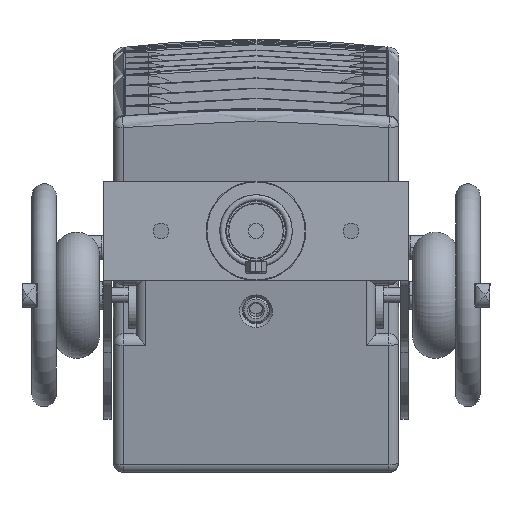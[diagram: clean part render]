
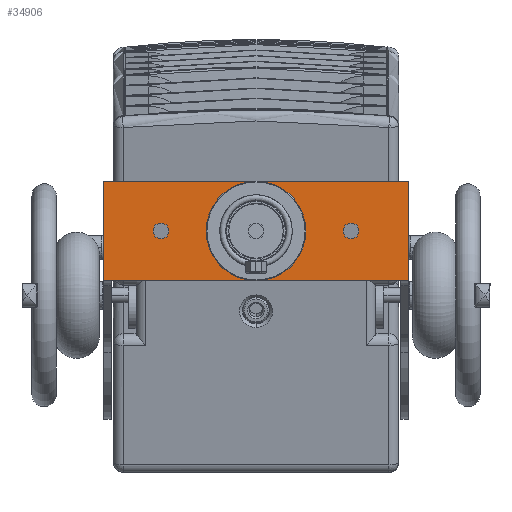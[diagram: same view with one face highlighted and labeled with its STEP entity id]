
A CAD part, front view. The second image highlights one B-rep face of the part: STEP entity #34906.
In plain terms, the highlighted planar face has unit normal (0, -1, 0) as drawn and (0, 0, -1) by its records, which use the part's own axes.
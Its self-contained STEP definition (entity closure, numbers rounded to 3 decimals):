
#7471 = DIRECTION ( 'NONE',  ( -1., 0., 0. ) ) ;
#7472 = DIRECTION ( 'NONE',  ( 0., 0., 1. ) ) ;
#7473 = CARTESIAN_POINT ( 'NONE',  ( 93.5, 126.903, -68.501 ) ) ;
#7474 = AXIS2_PLACEMENT_3D ( 'NONE', #7473, #7472, #7471 ) ;
#7475 = CIRCLE ( 'NONE', #7474, 5.25 ) ;
#7487 = DIRECTION ( 'NONE',  ( -1., 0., 0. ) ) ;
#7488 = DIRECTION ( 'NONE',  ( 0., 0., 1. ) ) ;
#7489 = CARTESIAN_POINT ( 'NONE',  ( 219.5, 126.903, -68.501 ) ) ;
#7490 = AXIS2_PLACEMENT_3D ( 'NONE', #7489, #7488, #7487 ) ;
#7491 = CIRCLE ( 'NONE', #7490, 5.25 ) ;
#7549 = DIRECTION ( 'NONE',  ( -1., 0., 0. ) ) ;
#7550 = DIRECTION ( 'NONE',  ( 0., 0., 1. ) ) ;
#7551 = CARTESIAN_POINT ( 'NONE',  ( 156.5, 126.903, -68.501 ) ) ;
#7552 = AXIS2_PLACEMENT_3D ( 'NONE', #7551, #7550, #7549 ) ;
#7556 = CIRCLE ( 'NONE', #7552, 5.25 ) ;
#7700 = CARTESIAN_POINT ( 'NONE',  ( 55.5, 159.903, -68.501 ) ) ;
#7701 = CARTESIAN_POINT ( 'NONE',  ( 55.5, 93.903, -68.501 ) ) ;
#7702 = DIRECTION ( 'NONE',  ( 0., 1., 0. ) ) ;
#7703 = VECTOR ( 'NONE', #7702, 1000. ) ;
#7704 = CARTESIAN_POINT ( 'NONE',  ( 55.5, 93.903, -68.501 ) ) ;
#7705 = LINE ( 'NONE', #7704, #7703 ) ;
#12425 = DIRECTION ( 'NONE',  ( 0., 0., 1. ) ) ;
#12426 = CARTESIAN_POINT ( 'NONE',  ( 93.5, 126.903, -68.501 ) ) ;
#12427 = AXIS2_PLACEMENT_3D ( 'NONE', #12426, #12425, #12487 ) ;
#12428 = CIRCLE ( 'NONE', #12427, 5.25 ) ;
#12434 = CARTESIAN_POINT ( 'NONE',  ( 98.75, 126.903, -68.501 ) ) ;
#12486 = CARTESIAN_POINT ( 'NONE',  ( 88.25, 126.903, -68.501 ) ) ;
#12487 = DIRECTION ( 'NONE',  ( -1., 0., 0. ) ) ;
#12509 = CARTESIAN_POINT ( 'NONE',  ( 151.25, 126.903, -68.501 ) ) ;
#12516 = DIRECTION ( 'NONE',  ( -1., 0., 0. ) ) ;
#12517 = DIRECTION ( 'NONE',  ( 0., 0., 1. ) ) ;
#12518 = CARTESIAN_POINT ( 'NONE',  ( 156.5, 126.903, -68.501 ) ) ;
#12519 = AXIS2_PLACEMENT_3D ( 'NONE', #12518, #12517, #12516 ) ;
#12520 = CIRCLE ( 'NONE', #12519, 5.25 ) ;
#12525 = CARTESIAN_POINT ( 'NONE',  ( 214.25, 126.903, -68.501 ) ) ;
#12526 = DIRECTION ( 'NONE',  ( -1., 0., 0. ) ) ;
#12527 = DIRECTION ( 'NONE',  ( 0., 0., 1. ) ) ;
#12528 = CARTESIAN_POINT ( 'NONE',  ( 219.5, 126.903, -68.501 ) ) ;
#12529 = AXIS2_PLACEMENT_3D ( 'NONE', #12528, #12527, #12526 ) ;
#12530 = CIRCLE ( 'NONE', #12529, 5.25 ) ;
#12536 = CARTESIAN_POINT ( 'NONE',  ( 224.75, 126.903, -68.501 ) ) ;
#12618 = CARTESIAN_POINT ( 'NONE',  ( 161.75, 126.903, -68.501 ) ) ;
#13272 = CARTESIAN_POINT ( 'NONE',  ( 257.5, 93.903, -68.501 ) ) ;
#13273 = DIRECTION ( 'NONE',  ( -1., 0., 0. ) ) ;
#13274 = VECTOR ( 'NONE', #13273, 1000. ) ;
#13275 = CARTESIAN_POINT ( 'NONE',  ( 60.5, 93.903, -68.501 ) ) ;
#13276 = LINE ( 'NONE', #13275, #13274 ) ;
#14497 = DIRECTION ( 'NONE',  ( 0., 1., 0. ) ) ;
#14498 = VECTOR ( 'NONE', #14497, 1000. ) ;
#14499 = CARTESIAN_POINT ( 'NONE',  ( 257.5, 159.903, -68.501 ) ) ;
#14500 = LINE ( 'NONE', #14499, #14498 ) ;
#14502 = CARTESIAN_POINT ( 'NONE',  ( 257.5, 159.903, -68.501 ) ) ;
#14507 = DIRECTION ( 'NONE',  ( -1., 0., 0. ) ) ;
#14508 = VECTOR ( 'NONE', #14507, 1000. ) ;
#14509 = CARTESIAN_POINT ( 'NONE',  ( 60.5, 159.903, -68.501 ) ) ;
#14513 = LINE ( 'NONE', #14509, #14508 ) ;
#14516 = DIRECTION ( 'NONE',  ( -1., 0., 0. ) ) ;
#14517 = DIRECTION ( 'NONE',  ( 0., 0., -1. ) ) ;
#14518 = CARTESIAN_POINT ( 'NONE',  ( 60.5, 93.903, -68.501 ) ) ;
#14520 = AXIS2_PLACEMENT_3D ( 'NONE', #14518, #14517, #14516 ) ;
#14521 = PLANE ( 'NONE',  #14520 ) ;
#14522 = FACE_BOUND ( 'NONE', #34874, .T. ) ;
#14523 = FACE_BOUND ( 'NONE', #35001, .T. ) ;
#14524 = FACE_BOUND ( 'NONE', #34936, .T. ) ;
#14525 = FACE_OUTER_BOUND ( 'NONE', #34911, .T. ) ;
#16430 = ORIENTED_EDGE ( 'NONE', *, *, #22496, .T. ) ;
#20107 = EDGE_CURVE ( 'NONE', #22492, #22497, #7475, .T. ) ;
#20132 = EDGE_CURVE ( 'NONE', #22536, #22542, #7491, .T. ) ;
#20168 = EDGE_CURVE ( 'NONE', #22589, #22516, #7556, .T. ) ;
#20273 = EDGE_CURVE ( 'NONE', #20275, #20276, #7705, .T. ) ;
#20275 = VERTEX_POINT ( 'NONE', #7701 ) ;
#20276 = VERTEX_POINT ( 'NONE', #7700 ) ;
#22492 = VERTEX_POINT ( 'NONE', #12434 ) ;
#22496 = EDGE_CURVE ( 'NONE', #22497, #22492, #12428, .T. ) ;
#22497 = VERTEX_POINT ( 'NONE', #12486 ) ;
#22514 = EDGE_CURVE ( 'NONE', #22516, #22589, #12520, .T. ) ;
#22516 = VERTEX_POINT ( 'NONE', #12509 ) ;
#22536 = VERTEX_POINT ( 'NONE', #12536 ) ;
#22541 = EDGE_CURVE ( 'NONE', #22542, #22536, #12530, .T. ) ;
#22542 = VERTEX_POINT ( 'NONE', #12525 ) ;
#22589 = VERTEX_POINT ( 'NONE', #12618 ) ;
#22985 = EDGE_CURVE ( 'NONE', #22986, #20275, #13276, .T. ) ;
#22986 = VERTEX_POINT ( 'NONE', #13272 ) ;
#34874 = EDGE_LOOP ( 'NONE', ( #34876, #34880 ) ) ;
#34876 = ORIENTED_EDGE ( 'NONE', *, *, #22541, .T. ) ;
#34880 = ORIENTED_EDGE ( 'NONE', *, *, #20132, .T. ) ;
#34906 = ADVANCED_FACE ( 'NONE', ( #14525, #14524, #14523, #14522 ), #14521, .T. ) ;
#34911 = EDGE_LOOP ( 'NONE', ( #34915, #34920, #34922, #34928 ) ) ;
#34915 = ORIENTED_EDGE ( 'NONE', *, *, #22985, .T. ) ;
#34920 = ORIENTED_EDGE ( 'NONE', *, *, #20273, .T. ) ;
#34922 = ORIENTED_EDGE ( 'NONE', *, *, #34924, .F. ) ;
#34924 = EDGE_CURVE ( 'NONE', #34926, #20276, #14513, .T. ) ;
#34926 = VERTEX_POINT ( 'NONE', #14502 ) ;
#34928 = ORIENTED_EDGE ( 'NONE', *, *, #34931, .F. ) ;
#34931 = EDGE_CURVE ( 'NONE', #22986, #34926, #14500, .T. ) ;
#34936 = EDGE_LOOP ( 'NONE', ( #16430, #34998 ) ) ;
#34998 = ORIENTED_EDGE ( 'NONE', *, *, #20107, .T. ) ;
#35001 = EDGE_LOOP ( 'NONE', ( #35004, #35010 ) ) ;
#35004 = ORIENTED_EDGE ( 'NONE', *, *, #22514, .T. ) ;
#35010 = ORIENTED_EDGE ( 'NONE', *, *, #20168, .T. ) ;
